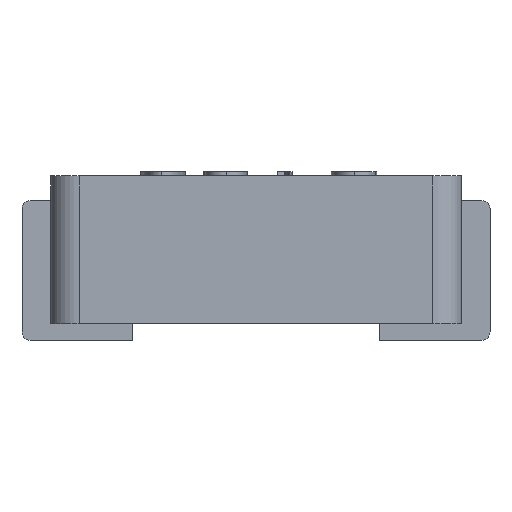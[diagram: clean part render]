
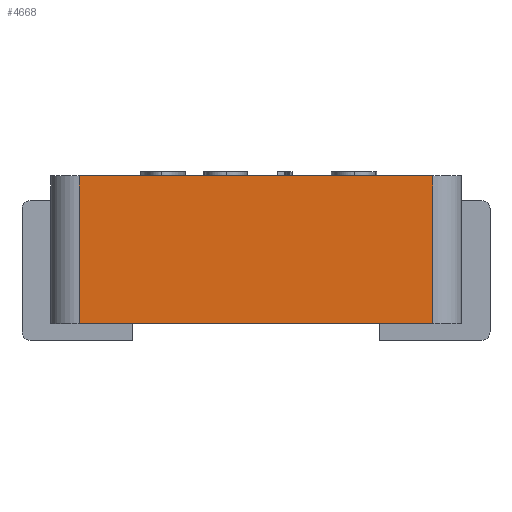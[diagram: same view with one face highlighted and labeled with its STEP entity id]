
A CAD part, front view. The second image highlights one B-rep face of the part: STEP entity #4668.
In plain terms, the highlighted planar face has unit normal (0, -1, 0).
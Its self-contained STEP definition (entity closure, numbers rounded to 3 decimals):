
#180 = VECTOR ( 'NONE', #2357, 1000. ) ;
#188 = CARTESIAN_POINT ( 'NONE',  ( -2.5, -2.5, 0. ) ) ;
#245 = CARTESIAN_POINT ( 'NONE',  ( -2.5, -2.5, 1.8 ) ) ;
#383 = CARTESIAN_POINT ( 'NONE',  ( -2.5, -2.5, 1.8 ) ) ;
#549 = ORIENTED_EDGE ( 'NONE', *, *, #4364, .T. ) ;
#1008 = DIRECTION ( 'NONE',  ( 0., 0., 1. ) ) ;
#1195 = ORIENTED_EDGE ( 'NONE', *, *, #6865, .F. ) ;
#1431 = FACE_OUTER_BOUND ( 'NONE', #2700, .T. ) ;
#1632 = LINE ( 'NONE', #188, #180 ) ;
#1819 = CARTESIAN_POINT ( 'NONE',  ( 2.15, -2.5, 1.8 ) ) ;
#2261 = DIRECTION ( 'NONE',  ( 1., 0., 0. ) ) ;
#2275 = CARTESIAN_POINT ( 'NONE',  ( -2.15, -2.5, 0. ) ) ;
#2357 = DIRECTION ( 'NONE',  ( 1., 0., 0. ) ) ;
#2446 = VERTEX_POINT ( 'NONE', #4773 ) ;
#2456 = VECTOR ( 'NONE', #2261, 1000. ) ;
#2546 = DIRECTION ( 'NONE',  ( 0., 1., 0. ) ) ;
#2700 = EDGE_LOOP ( 'NONE', ( #6747, #4084, #1195, #549 ) ) ;
#2992 = CARTESIAN_POINT ( 'NONE',  ( 2.15, -2.5, 1.8 ) ) ;
#3308 = LINE ( 'NONE', #5424, #4887 ) ;
#3316 = VERTEX_POINT ( 'NONE', #6398 ) ;
#3378 = VERTEX_POINT ( 'NONE', #2275 ) ;
#3859 = LINE ( 'NONE', #245, #2456 ) ;
#4078 = EDGE_CURVE ( 'NONE', #3378, #2446, #1632, .T. ) ;
#4084 = ORIENTED_EDGE ( 'NONE', *, *, #6340, .T. ) ;
#4139 = DIRECTION ( 'NONE',  ( 0., 0., 1. ) ) ;
#4364 = EDGE_CURVE ( 'NONE', #3316, #3378, #3308, .T. ) ;
#4578 = VERTEX_POINT ( 'NONE', #1819 ) ;
#4668 = ADVANCED_FACE ( 'NONE', ( #1431 ), #5697, .F. ) ;
#4773 = CARTESIAN_POINT ( 'NONE',  ( 2.15, -2.5, 0. ) ) ;
#4887 = VECTOR ( 'NONE', #5933, 1000. ) ;
#5424 = CARTESIAN_POINT ( 'NONE',  ( -2.15, -2.5, 1.8 ) ) ;
#5634 = LINE ( 'NONE', #2992, #6675 ) ;
#5697 = PLANE ( 'NONE',  #6811 ) ;
#5933 = DIRECTION ( 'NONE',  ( 0., 0., -1. ) ) ;
#6340 = EDGE_CURVE ( 'NONE', #2446, #4578, #5634, .T. ) ;
#6398 = CARTESIAN_POINT ( 'NONE',  ( -2.15, -2.5, 1.8 ) ) ;
#6675 = VECTOR ( 'NONE', #1008, 1000. ) ;
#6747 = ORIENTED_EDGE ( 'NONE', *, *, #4078, .T. ) ;
#6811 = AXIS2_PLACEMENT_3D ( 'NONE', #383, #2546, #4139 ) ;
#6865 = EDGE_CURVE ( 'NONE', #3316, #4578, #3859, .T. ) ;
